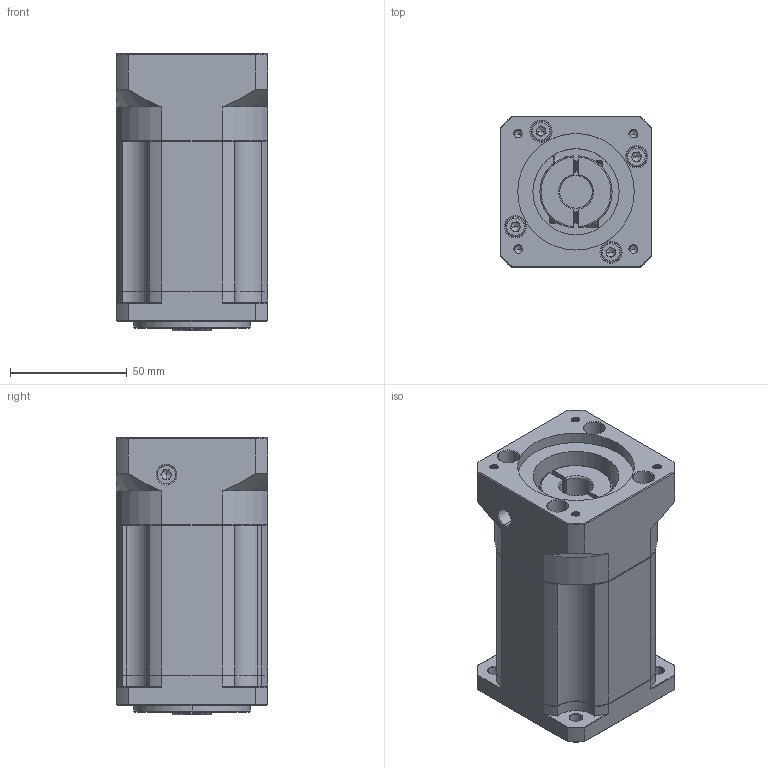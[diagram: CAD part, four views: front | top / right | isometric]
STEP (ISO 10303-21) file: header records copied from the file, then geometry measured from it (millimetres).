
FILE_DESCRIPTION (( 'STEP AP214' ), '1' );
FILE_NAME ('ZB60-K10-L3-14-50-70-M4.STEP', '2022-04-17T06:33:22', ( '' ), ( 'Microsoft' ), 'SwSTEP 2.0', 'SolidWorks 2016', '' );
FILE_SCHEMA (( 'AUTOMOTIVE_DESIGN' ));
Length unit declared in the file: millimetre
Products named in the file (1): ZB60-K10-L3-14-50-70-M4
Bounding box: 65 x 65 x 119 mm (x, y, z)
Volume: 382698.4 mm3; surface area: 61458.5 mm2
Topology: 6 solids, 6 shells, 1821 faces, 4831 edges, 3096 vertices
Faces by surface type: plane 876, cylinder 342, bspline 292, cone 277, torus 34
Entity records: 92969 total; most frequent: CARTESIAN_POINT 29823, ORIENTED_EDGE 9606, DIRECTION 7955, EDGE_CURVE 4803, VERTEX_POINT 3096, VECTOR 2959, LINE 2959, AXIS2_PLACEMENT_3D 2498
